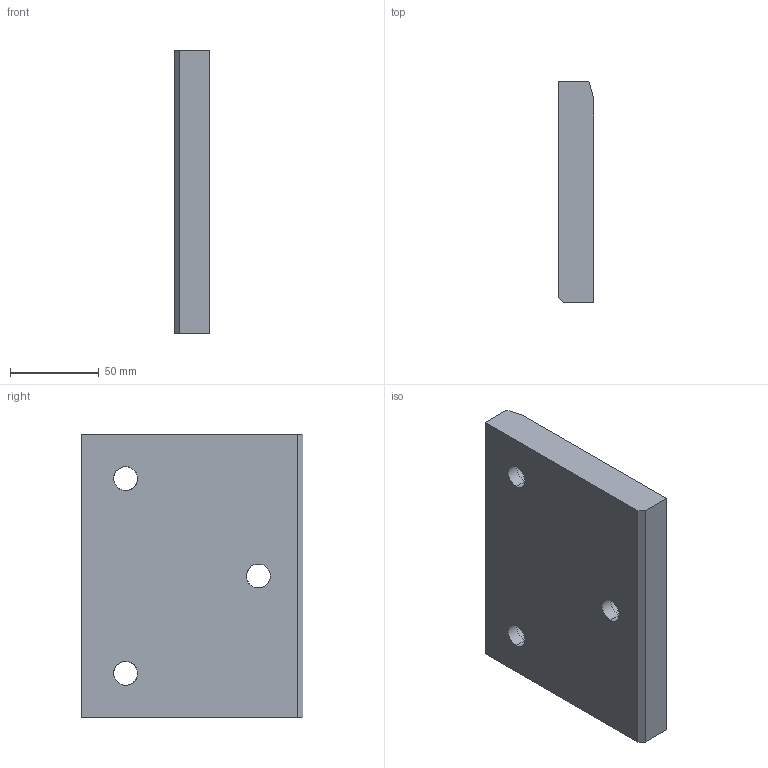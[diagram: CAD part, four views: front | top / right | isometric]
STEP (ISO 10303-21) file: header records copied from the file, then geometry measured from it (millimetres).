
FILE_DESCRIPTION(('CATIA V5 STEP Exchange'),'2;1');
FILE_NAME('C:\Users\borellobunino\Desktop\3D X SITO CF\A915\GSB_OILLESS_G22501160125\STEP-2.03\A915-160X125.stp','2019-07-14T14:15:05+00:00',('none'),('none'),'CATIA Version 5 Release 20 GA (IN-10)','CATIA V5 STEP AP203','none');
FILE_SCHEMA(('CONFIG_CONTROL_DESIGN'));
Length unit declared in the file: millimetre
Products named in the file (1): A915-160X125
Bounding box: 20 x 125 x 160 mm (x, y, z)
Volume: 381486.8 mm3; surface area: 52961.1 mm2
Topology: 1 solids, 1 shells, 30 faces, 99 edges, 74 vertices
Faces by surface type: cylinder 13, plane 11, torus 6
Entity records: 1437 total; most frequent: CARTESIAN_POINT 540, ORIENTED_EDGE 198, DIRECTION 135, EDGE_CURVE 99, AXIS2_PLACEMENT_3D 75, VERTEX_POINT 74, CIRCLE 44, EDGE_LOOP 39
